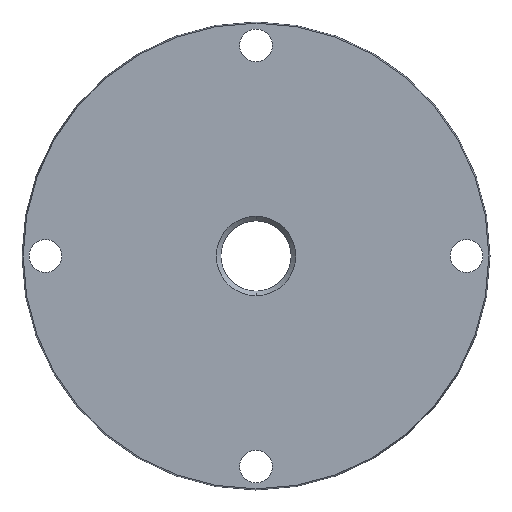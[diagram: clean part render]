
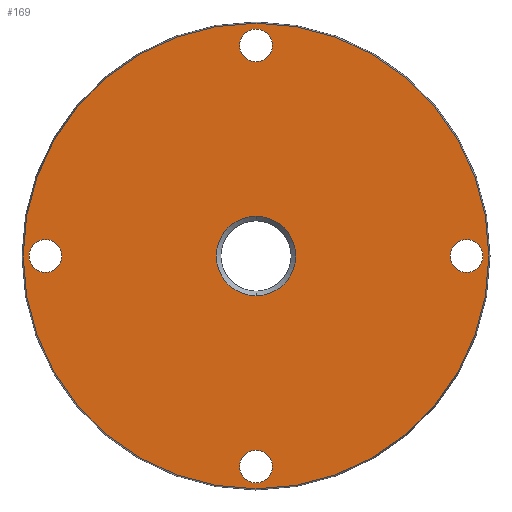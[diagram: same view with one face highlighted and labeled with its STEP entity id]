
A CAD part, left-side view. The second image highlights one B-rep face of the part: STEP entity #169.
In plain terms, the highlighted planar face has unit normal (-1, 0, 0).
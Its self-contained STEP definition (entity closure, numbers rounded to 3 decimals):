
#23 = CARTESIAN_POINT ( 'NONE',  ( 0., -45., 0. ) ) ;
#24 = DIRECTION ( 'NONE',  ( 1., 0., 0. ) ) ;
#25 = DIRECTION ( 'NONE',  ( 0., 0., -1. ) ) ;
#35 = EDGE_CURVE ( 'NONE', #1387, #1388, #1118, .T. ) ;
#45 = AXIS2_PLACEMENT_3D ( 'NONE', #1005, #1006, #1007 ) ;
#50 = EDGE_CURVE ( 'NONE', #1400, #1390, #1441, .T. ) ;
#51 = AXIS2_PLACEMENT_3D ( 'NONE', #1001, #1002, #1003 ) ;
#54 = EDGE_CURVE ( 'NONE', #1406, #1405, #1444, .T. ) ;
#74 = EDGE_CURVE ( 'NONE', #1388, #1387, #1455, .T. ) ;
#81 = AXIS2_PLACEMENT_3D ( 'NONE', #23, #24, #25 ) ;
#93 = EDGE_CURVE ( 'NONE', #1403, #1396, #1464, .T. ) ;
#104 = AXIS2_PLACEMENT_3D ( 'NONE', #1094, #1095, #1096 ) ;
#108 = AXIS2_PLACEMENT_3D ( 'NONE', #1063, #1064, #1065 ) ;
#111 = AXIS2_PLACEMENT_3D ( 'NONE', #1069, #1070, #1071 ) ;
#130 = AXIS2_PLACEMENT_3D ( 'NONE', #1051, #1052, #1053 ) ;
#133 = EDGE_CURVE ( 'NONE', #1409, #1417, #1506, .T. ) ;
#134 = EDGE_CURVE ( 'NONE', #1431, #1427, #1504, .T. ) ;
#169 = ADVANCED_FACE ( 'NONE', ( #618, #622, #619, #617, #620, #623 ), #376, .F. ) ;
#247 = AXIS2_PLACEMENT_3D ( 'NONE', #385, #386, #387 ) ;
#249 = AXIS2_PLACEMENT_3D ( 'NONE', #399, #400, #401 ) ;
#253 = AXIS2_PLACEMENT_3D ( 'NONE', #430, #431, #432 ) ;
#255 = AXIS2_PLACEMENT_3D ( 'NONE', #437, #438, #439 ) ;
#283 = AXIS2_PLACEMENT_3D ( 'NONE', #781, #782, #783 ) ;
#288 = AXIS2_PLACEMENT_3D ( 'NONE', #808, #809, #810 ) ;
#376 = PLANE ( 'NONE',  #247 ) ;
#385 = CARTESIAN_POINT ( 'NONE',  ( 0., 7.5, 0. ) ) ;
#386 = DIRECTION ( 'NONE',  ( 1., 0., 0. ) ) ;
#387 = DIRECTION ( 'NONE',  ( 0., 0., -1. ) ) ;
#399 = CARTESIAN_POINT ( 'NONE',  ( 0., 0., 0. ) ) ;
#400 = DIRECTION ( 'NONE',  ( -1., 0., 0. ) ) ;
#401 = DIRECTION ( 'NONE',  ( 0., 0., -1. ) ) ;
#430 = CARTESIAN_POINT ( 'NONE',  ( 0., -45., 0. ) ) ;
#431 = DIRECTION ( 'NONE',  ( 1., 0., 0. ) ) ;
#432 = DIRECTION ( 'NONE',  ( 0., 0., -1. ) ) ;
#437 = CARTESIAN_POINT ( 'NONE',  ( 0., 0., 45. ) ) ;
#438 = DIRECTION ( 'NONE',  ( 1., 0., 0. ) ) ;
#439 = DIRECTION ( 'NONE',  ( 0., 0., -1. ) ) ;
#467 = EDGE_CURVE ( 'NONE', #1390, #1400, #633, .T. ) ;
#479 = EDGE_CURVE ( 'NONE', #1396, #1403, #652, .T. ) ;
#481 = EDGE_CURVE ( 'NONE', #1427, #1431, #649, .T. ) ;
#617 = FACE_BOUND ( 'NONE', #1355, .T. ) ;
#618 = FACE_BOUND ( 'NONE', #1351, .T. ) ;
#619 = FACE_BOUND ( 'NONE', #1358, .T. ) ;
#620 = FACE_OUTER_BOUND ( 'NONE', #1357, .T. ) ;
#622 = FACE_BOUND ( 'NONE', #1356, .T. ) ;
#623 = FACE_BOUND ( 'NONE', #1359, .T. ) ;
#633 = CIRCLE ( 'NONE', #249, 49.75 ) ;
#649 = CIRCLE ( 'NONE', #255, 3.5 ) ;
#652 = CIRCLE ( 'NONE', #253, 3.5 ) ;
#701 = CIRCLE ( 'NONE', #283, 3.5 ) ;
#711 = CIRCLE ( 'NONE', #288, 3.5 ) ;
#781 = CARTESIAN_POINT ( 'NONE',  ( 0., 45., 0. ) ) ;
#782 = DIRECTION ( 'NONE',  ( 1., 0., 0. ) ) ;
#783 = DIRECTION ( 'NONE',  ( 0., 0., -1. ) ) ;
#808 = CARTESIAN_POINT ( 'NONE',  ( 0., 0., -45. ) ) ;
#809 = DIRECTION ( 'NONE',  ( 1., 0., 0. ) ) ;
#810 = DIRECTION ( 'NONE',  ( 0., 0., -1. ) ) ;
#826 = CARTESIAN_POINT ( 'NONE',  ( 0., 0., 8.5 ) ) ;
#827 = CARTESIAN_POINT ( 'NONE',  ( 0., 0., -8.5 ) ) ;
#829 = CARTESIAN_POINT ( 'NONE',  ( 0., 0., 49.75 ) ) ;
#835 = CARTESIAN_POINT ( 'NONE',  ( 0., -45., 3.5 ) ) ;
#839 = CARTESIAN_POINT ( 'NONE',  ( 0., 0., -49.75 ) ) ;
#842 = CARTESIAN_POINT ( 'NONE',  ( 0., -45., -3.5 ) ) ;
#844 = CARTESIAN_POINT ( 'NONE',  ( 0., 0., -41.5 ) ) ;
#845 = CARTESIAN_POINT ( 'NONE',  ( 0., 0., -48.5 ) ) ;
#848 = CARTESIAN_POINT ( 'NONE',  ( 0., 45., -3.5 ) ) ;
#856 = CARTESIAN_POINT ( 'NONE',  ( 0., 45., 3.5 ) ) ;
#866 = CARTESIAN_POINT ( 'NONE',  ( 0., 0., 48.5 ) ) ;
#870 = CARTESIAN_POINT ( 'NONE',  ( 0., 0., 41.5 ) ) ;
#917 = EDGE_CURVE ( 'NONE', #1417, #1409, #701, .T. ) ;
#925 = EDGE_CURVE ( 'NONE', #1405, #1406, #711, .T. ) ;
#1001 = CARTESIAN_POINT ( 'NONE',  ( 0., 45., 0. ) ) ;
#1002 = DIRECTION ( 'NONE',  ( 1., 0., 0. ) ) ;
#1003 = DIRECTION ( 'NONE',  ( 0., 0., -1. ) ) ;
#1005 = CARTESIAN_POINT ( 'NONE',  ( 0., 0., 45. ) ) ;
#1006 = DIRECTION ( 'NONE',  ( 1., 0., 0. ) ) ;
#1007 = DIRECTION ( 'NONE',  ( 0., 0., -1. ) ) ;
#1051 = CARTESIAN_POINT ( 'NONE',  ( 0., 0., 0. ) ) ;
#1052 = DIRECTION ( 'NONE',  ( 1., 0., 0. ) ) ;
#1053 = DIRECTION ( 'NONE',  ( 0., 0., -1. ) ) ;
#1063 = CARTESIAN_POINT ( 'NONE',  ( 0., 0., 0. ) ) ;
#1064 = DIRECTION ( 'NONE',  ( -1., 0., 0. ) ) ;
#1065 = DIRECTION ( 'NONE',  ( 0., 0., -1. ) ) ;
#1069 = CARTESIAN_POINT ( 'NONE',  ( 0., 0., -45. ) ) ;
#1070 = DIRECTION ( 'NONE',  ( 1., 0., 0. ) ) ;
#1071 = DIRECTION ( 'NONE',  ( 0., 0., -1. ) ) ;
#1094 = CARTESIAN_POINT ( 'NONE',  ( 0., 0., 0. ) ) ;
#1095 = DIRECTION ( 'NONE',  ( 1., 0., 0. ) ) ;
#1096 = DIRECTION ( 'NONE',  ( 0., 0., -1. ) ) ;
#1113 = ORIENTED_EDGE ( 'NONE', *, *, #481, .T. ) ;
#1116 = ORIENTED_EDGE ( 'NONE', *, *, #93, .T. ) ;
#1118 = CIRCLE ( 'NONE', #104, 8.5 ) ;
#1120 = ORIENTED_EDGE ( 'NONE', *, *, #50, .T. ) ;
#1125 = ORIENTED_EDGE ( 'NONE', *, *, #35, .T. ) ;
#1140 = ORIENTED_EDGE ( 'NONE', *, *, #925, .T. ) ;
#1142 = ORIENTED_EDGE ( 'NONE', *, *, #134, .T. ) ;
#1150 = ORIENTED_EDGE ( 'NONE', *, *, #917, .T. ) ;
#1156 = ORIENTED_EDGE ( 'NONE', *, *, #133, .T. ) ;
#1157 = ORIENTED_EDGE ( 'NONE', *, *, #479, .T. ) ;
#1160 = ORIENTED_EDGE ( 'NONE', *, *, #54, .T. ) ;
#1165 = ORIENTED_EDGE ( 'NONE', *, *, #74, .T. ) ;
#1166 = ORIENTED_EDGE ( 'NONE', *, *, #467, .T. ) ;
#1351 = EDGE_LOOP ( 'NONE', ( #1156, #1150 ) ) ;
#1355 = EDGE_LOOP ( 'NONE', ( #1142, #1113 ) ) ;
#1356 = EDGE_LOOP ( 'NONE', ( #1160, #1140 ) ) ;
#1357 = EDGE_LOOP ( 'NONE', ( #1120, #1166 ) ) ;
#1358 = EDGE_LOOP ( 'NONE', ( #1116, #1157 ) ) ;
#1359 = EDGE_LOOP ( 'NONE', ( #1125, #1165 ) ) ;
#1387 = VERTEX_POINT ( 'NONE', #826 ) ;
#1388 = VERTEX_POINT ( 'NONE', #827 ) ;
#1390 = VERTEX_POINT ( 'NONE', #829 ) ;
#1396 = VERTEX_POINT ( 'NONE', #835 ) ;
#1400 = VERTEX_POINT ( 'NONE', #839 ) ;
#1403 = VERTEX_POINT ( 'NONE', #842 ) ;
#1405 = VERTEX_POINT ( 'NONE', #844 ) ;
#1406 = VERTEX_POINT ( 'NONE', #845 ) ;
#1409 = VERTEX_POINT ( 'NONE', #848 ) ;
#1417 = VERTEX_POINT ( 'NONE', #856 ) ;
#1427 = VERTEX_POINT ( 'NONE', #866 ) ;
#1431 = VERTEX_POINT ( 'NONE', #870 ) ;
#1441 = CIRCLE ( 'NONE', #108, 49.75 ) ;
#1444 = CIRCLE ( 'NONE', #111, 3.5 ) ;
#1455 = CIRCLE ( 'NONE', #130, 8.5 ) ;
#1464 = CIRCLE ( 'NONE', #81, 3.5 ) ;
#1504 = CIRCLE ( 'NONE', #45, 3.5 ) ;
#1506 = CIRCLE ( 'NONE', #51, 3.5 ) ;
